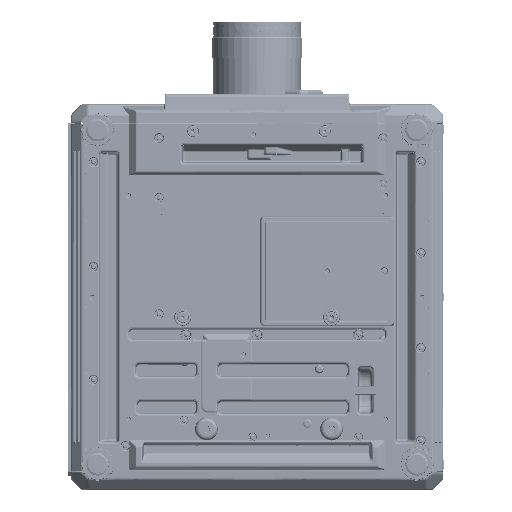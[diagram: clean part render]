
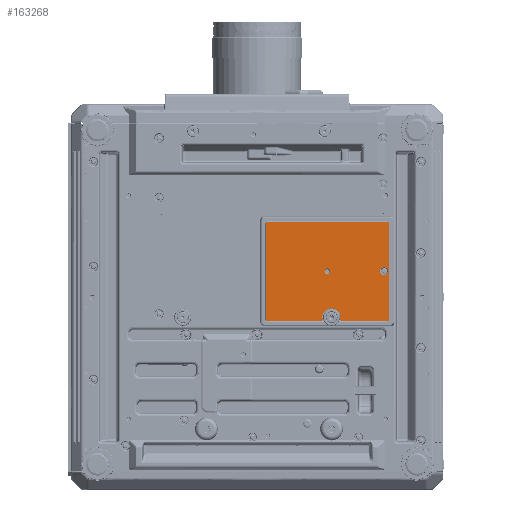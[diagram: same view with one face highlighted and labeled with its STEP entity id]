
A CAD part, front view. The second image highlights one B-rep face of the part: STEP entity #163268.
In plain terms, the highlighted planar face has unit normal (0, -1, 0).
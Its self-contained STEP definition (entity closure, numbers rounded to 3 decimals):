
#85541=ELLIPSE('',#363198,1.504,1.5);
#85542=ELLIPSE('',#363199,1.504,1.5);
#85543=ELLIPSE('',#363201,1.504,1.5);
#85544=ELLIPSE('',#363202,1.504,1.5);
#91308=PLANE('',#363203);
#118112=LINE('',#530688,#145108);
#118113=LINE('',#530693,#145109);
#118114=LINE('',#530697,#145110);
#118115=LINE('',#530741,#145111);
#118116=LINE('',#530745,#145112);
#145108=VECTOR('',#419187,1.);
#145109=VECTOR('',#419190,1.);
#145110=VECTOR('',#419193,1.);
#145111=VECTOR('',#419196,1.);
#145112=VECTOR('',#419199,1.);
#163268=ADVANCED_FACE('',(#174655,#174656,#174657),#91308,.F.);
#170547=B_SPLINE_CURVE_WITH_KNOTS('',3,(#530699,#530700,#530701,#530702,
#530703,#530704,#530705,#530706,#530707,#530708,#530709,#530710,#530711,
#530712,#530713,#530714,#530715,#530716,#530717),.UNSPECIFIED.,.F.,.F.,
(4,3,3,3,3,3,4),(0.,0.054,0.243,0.432,
0.621,0.811,1.),.UNSPECIFIED.);
#170548=B_SPLINE_CURVE_WITH_KNOTS('',3,(#530721,#530722,#530723,#530724,
#530725,#530726,#530727,#530728,#530729,#530730,#530731,#530732,#530733,
#530734,#530735,#530736,#530737,#530738,#530739),.UNSPECIFIED.,.F.,.F.,
(4,3,3,3,3,3,4),(0.,0.054,0.243,0.432,
0.621,0.811,1.),.UNSPECIFIED.);
#174655=FACE_BOUND('',#182969,.T.);
#174656=FACE_BOUND('',#182970,.T.);
#174657=FACE_BOUND('',#182971,.T.);
#182969=EDGE_LOOP('',(#220815));
#182970=EDGE_LOOP('',(#220816));
#182971=EDGE_LOOP('',(#220817,#220818,#220819,#220820,#220821,#220822,#220823,
#220824,#220825,#220826,#220827,#220828));
#220815=ORIENTED_EDGE('',*,*,#315285,.T.);
#220816=ORIENTED_EDGE('',*,*,#315286,.T.);
#220817=ORIENTED_EDGE('',*,*,#315287,.T.);
#220818=ORIENTED_EDGE('',*,*,#315288,.T.);
#220819=ORIENTED_EDGE('',*,*,#315289,.T.);
#220820=ORIENTED_EDGE('',*,*,#315290,.T.);
#220821=ORIENTED_EDGE('',*,*,#315291,.T.);
#220822=ORIENTED_EDGE('',*,*,#315292,.T.);
#220823=ORIENTED_EDGE('',*,*,#315293,.T.);
#220824=ORIENTED_EDGE('',*,*,#315294,.T.);
#220825=ORIENTED_EDGE('',*,*,#315295,.T.);
#220826=ORIENTED_EDGE('',*,*,#315296,.T.);
#220827=ORIENTED_EDGE('',*,*,#315297,.T.);
#220828=ORIENTED_EDGE('',*,*,#315298,.T.);
#269775=VERTEX_POINT('',#530684);
#269776=VERTEX_POINT('',#530687);
#269777=VERTEX_POINT('',#530689);
#269778=VERTEX_POINT('',#530690);
#269779=VERTEX_POINT('',#530692);
#269780=VERTEX_POINT('',#530694);
#269781=VERTEX_POINT('',#530696);
#269782=VERTEX_POINT('',#530698);
#269783=VERTEX_POINT('',#530718);
#269784=VERTEX_POINT('',#530720);
#269785=VERTEX_POINT('',#530740);
#269786=VERTEX_POINT('',#530742);
#269787=VERTEX_POINT('',#530744);
#269788=VERTEX_POINT('',#530746);
#315285=EDGE_CURVE('',#269775,#269775,#343638,.T.);
#315286=EDGE_CURVE('',#269776,#269776,#343639,.T.);
#315287=EDGE_CURVE('',#269777,#269778,#118112,.T.);
#315288=EDGE_CURVE('',#269778,#269779,#85541,.T.);
#315289=EDGE_CURVE('',#269779,#269780,#118113,.T.);
#315290=EDGE_CURVE('',#269780,#269781,#85542,.T.);
#315291=EDGE_CURVE('',#269781,#269782,#118114,.T.);
#315292=EDGE_CURVE('',#269782,#269783,#170547,.T.);
#315293=EDGE_CURVE('',#269783,#269784,#343640,.T.);
#315294=EDGE_CURVE('',#269784,#269785,#170548,.T.);
#315295=EDGE_CURVE('',#269785,#269786,#118115,.T.);
#315296=EDGE_CURVE('',#269786,#269787,#85543,.T.);
#315297=EDGE_CURVE('',#269787,#269788,#118116,.T.);
#315298=EDGE_CURVE('',#269788,#269777,#85544,.T.);
#343638=CIRCLE('',#363195,4.);
#343639=CIRCLE('',#363197,6.125);
#343640=CIRCLE('',#363200,13.358);
#363195=AXIS2_PLACEMENT_3D('',#530683,#419181,#419182);
#363197=AXIS2_PLACEMENT_3D('',#530686,#419185,#419186);
#363198=AXIS2_PLACEMENT_3D('',#530691,#419188,#419189);
#363199=AXIS2_PLACEMENT_3D('',#530695,#419191,#419192);
#363200=AXIS2_PLACEMENT_3D('',#530719,#419194,#419195);
#363201=AXIS2_PLACEMENT_3D('',#530743,#419197,#419198);
#363202=AXIS2_PLACEMENT_3D('',#530747,#419200,#419201);
#363203=AXIS2_PLACEMENT_3D('',#530748,#419202,#419203);
#419181=DIRECTION('',(0.,1.,0.));
#419182=DIRECTION('',(0.,0.,1.));
#419185=DIRECTION('',(0.,1.,0.));
#419186=DIRECTION('',(0.,0.,1.));
#419187=DIRECTION('',(-1.,0.,0.));
#419188=DIRECTION('',(0.,-1.,0.));
#419189=DIRECTION('',(0.707,0.,-0.707));
#419190=DIRECTION('',(0.,0.,-1.));
#419191=DIRECTION('',(0.,-1.,0.));
#419192=DIRECTION('',(-0.707,0.,-0.707));
#419193=DIRECTION('',(1.,0.,0.));
#419194=DIRECTION('',(0.,1.,0.));
#419195=DIRECTION('',(0.,0.,1.));
#419196=DIRECTION('',(1.,0.,0.));
#419197=DIRECTION('',(0.,-1.,0.));
#419198=DIRECTION('',(-0.707,0.,0.707));
#419199=DIRECTION('',(0.,0.,1.));
#419200=DIRECTION('',(0.,-1.,0.));
#419201=DIRECTION('',(-0.707,0.,-0.707));
#419202=DIRECTION('',(0.,1.,0.));
#419203=DIRECTION('',(0.,0.,1.));
#530683=CARTESIAN_POINT('',(103.8,-116.5,-1.5));
#530684=CARTESIAN_POINT('',(103.8,-116.5,2.5));
#530686=CARTESIAN_POINT('',(187.8,-116.5,-1.5));
#530687=CARTESIAN_POINT('',(187.8,-116.5,4.625));
#530688=CARTESIAN_POINT('',(110.,-116.5,71.642));
#530689=CARTESIAN_POINT('',(193.644,-116.5,71.642));
#530690=CARTESIAN_POINT('',(14.356,-116.5,71.642));
#530691=CARTESIAN_POINT('',(14.36,-116.5,70.14));
#530692=CARTESIAN_POINT('',(12.858,-116.5,70.144));
#530693=CARTESIAN_POINT('',(12.858,-116.5,-70.));
#530694=CARTESIAN_POINT('',(12.858,-116.5,-73.144));
#530695=CARTESIAN_POINT('',(14.36,-116.5,-73.14));
#530696=CARTESIAN_POINT('',(14.356,-116.5,-74.642));
#530697=CARTESIAN_POINT('',(110.,-116.5,-74.642));
#530698=CARTESIAN_POINT('',(95.481,-116.5,-74.642));
#530699=CARTESIAN_POINT('',(95.481,-116.5,-74.642));
#530700=CARTESIAN_POINT('',(95.529,-116.5,-74.642));
#530701=CARTESIAN_POINT('',(95.578,-116.5,-74.64));
#530702=CARTESIAN_POINT('',(95.627,-116.5,-74.635));
#530703=CARTESIAN_POINT('',(95.794,-116.5,-74.619));
#530704=CARTESIAN_POINT('',(95.96,-116.5,-74.574));
#530705=CARTESIAN_POINT('',(96.112,-116.5,-74.503));
#530706=CARTESIAN_POINT('',(96.264,-116.5,-74.433));
#530707=CARTESIAN_POINT('',(96.405,-116.5,-74.335));
#530708=CARTESIAN_POINT('',(96.525,-116.5,-74.219));
#530709=CARTESIAN_POINT('',(96.645,-116.5,-74.102));
#530710=CARTESIAN_POINT('',(96.747,-116.5,-73.963));
#530711=CARTESIAN_POINT('',(96.822,-116.5,-73.813));
#530712=CARTESIAN_POINT('',(96.897,-116.5,-73.662));
#530713=CARTESIAN_POINT('',(96.947,-116.5,-73.497));
#530714=CARTESIAN_POINT('',(96.967,-116.5,-73.33));
#530715=CARTESIAN_POINT('',(96.988,-116.5,-73.164));
#530716=CARTESIAN_POINT('',(96.98,-116.5,-72.991));
#530717=CARTESIAN_POINT('',(96.945,-116.5,-72.827));
#530718=CARTESIAN_POINT('',(96.945,-116.5,-72.827));
#530719=CARTESIAN_POINT('',(110.,-116.5,-70.));
#530720=CARTESIAN_POINT('',(123.055,-116.5,-72.827));
#530721=CARTESIAN_POINT('',(123.055,-116.5,-72.827));
#530722=CARTESIAN_POINT('',(123.045,-116.5,-72.875));
#530723=CARTESIAN_POINT('',(123.037,-116.5,-72.923));
#530724=CARTESIAN_POINT('',(123.031,-116.5,-72.972));
#530725=CARTESIAN_POINT('',(123.012,-116.5,-73.138));
#530726=CARTESIAN_POINT('',(123.021,-116.5,-73.31));
#530727=CARTESIAN_POINT('',(123.058,-116.5,-73.473));
#530728=CARTESIAN_POINT('',(123.094,-116.5,-73.637));
#530729=CARTESIAN_POINT('',(123.159,-116.5,-73.796));
#530730=CARTESIAN_POINT('',(123.248,-116.5,-73.938));
#530731=CARTESIAN_POINT('',(123.337,-116.5,-74.08));
#530732=CARTESIAN_POINT('',(123.451,-116.5,-74.209));
#530733=CARTESIAN_POINT('',(123.582,-116.5,-74.313));
#530734=CARTESIAN_POINT('',(123.713,-116.5,-74.418));
#530735=CARTESIAN_POINT('',(123.864,-116.5,-74.502));
#530736=CARTESIAN_POINT('',(124.023,-116.5,-74.558));
#530737=CARTESIAN_POINT('',(124.181,-116.5,-74.613));
#530738=CARTESIAN_POINT('',(124.351,-116.5,-74.642));
#530739=CARTESIAN_POINT('',(124.519,-116.5,-74.642));
#530740=CARTESIAN_POINT('',(124.519,-116.5,-74.642));
#530741=CARTESIAN_POINT('',(110.,-116.5,-74.642));
#530742=CARTESIAN_POINT('',(193.644,-116.5,-74.642));
#530743=CARTESIAN_POINT('',(193.64,-116.5,-73.14));
#530744=CARTESIAN_POINT('',(195.142,-116.5,-73.144));
#530745=CARTESIAN_POINT('',(195.142,-116.5,-70.));
#530746=CARTESIAN_POINT('',(195.142,-116.5,70.144));
#530747=CARTESIAN_POINT('',(193.64,-116.5,70.14));
#530748=CARTESIAN_POINT('',(110.,-116.5,-70.));
